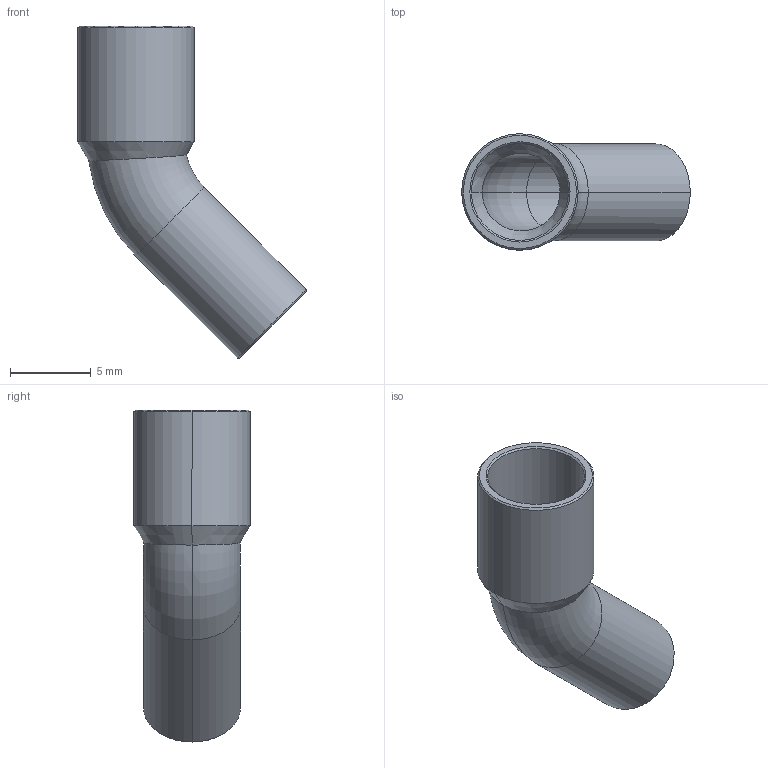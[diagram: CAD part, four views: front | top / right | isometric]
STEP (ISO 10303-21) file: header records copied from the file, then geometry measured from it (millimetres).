
FILE_DESCRIPTION((''),'2;1');
FILE_NAME('P:\Bouwmaten\z-maattekeningen 3D\5000\5040\15040a6.stp','2005-10-05T07:57:15',('Kris'),(''),'Autodesk Inventor 8','Autodesk Inventor 8','');
FILE_SCHEMA(('AUTOMOTIVE_DESIGN { 1 0 10303 214 1 1 1 1 }'));
Length unit declared in the file: millimetre
Products named in the file (1): 15040a6
Bounding box: 14.14 x 7.2 x 20.54 mm (x, y, z)
Volume: 239.4 mm3; surface area: 818.2 mm2
Topology: 1 solids, 1 shells, 24 faces, 49 edges, 27 vertices
Faces by surface type: cone 10, cylinder 8, torus 4, plane 2
Entity records: 719 total; most frequent: CARTESIAN_POINT 177, DIRECTION 122, ORIENTED_EDGE 98, AXIS2_PLACEMENT_3D 52, EDGE_CURVE 49, VERTEX_POINT 27, CIRCLE 27, EDGE_LOOP 26
